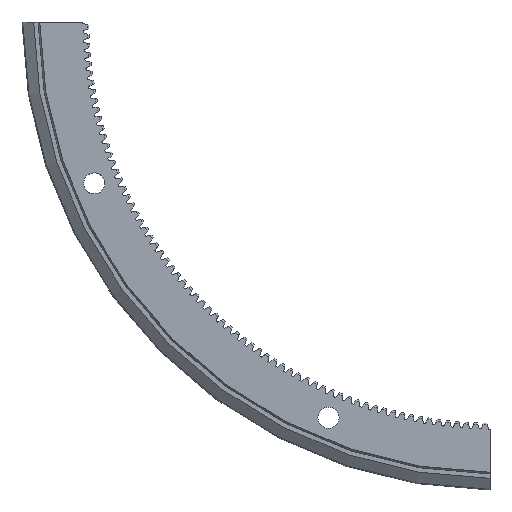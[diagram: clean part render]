
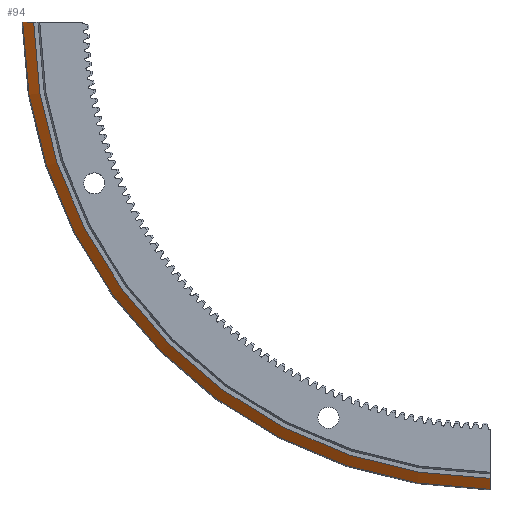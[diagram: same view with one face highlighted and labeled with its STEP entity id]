
A CAD part, front view. The second image highlights one B-rep face of the part: STEP entity #94.
In plain terms, the highlighted conical face has half-angle 55 degrees and reference radius 111.479 mm.
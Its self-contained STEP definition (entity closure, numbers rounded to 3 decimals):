
#94=ADVANCED_FACE('',(#455),#456,.T.);
#455=FACE_OUTER_BOUND('',#1183,.T.);
#456=CONICAL_SURFACE('',#1184,111.479,0.96);
#1183=EDGE_LOOP('',(#1923,#1924,#1925,#1926));
#1184=AXIS2_PLACEMENT_3D('',#1927,#1928,#1929);
#1923=ORIENTED_EDGE('',*,*,#5108,.F.);
#1924=ORIENTED_EDGE('',*,*,#5119,.F.);
#1925=ORIENTED_EDGE('',*,*,#5120,.F.);
#1926=ORIENTED_EDGE('',*,*,#5121,.T.);
#1927=CARTESIAN_POINT('',(0.0,7.576,0.0));
#1928=DIRECTION('',(-0.0,1.0,-0.0));
#1929=DIRECTION('',(0.0,0.0,1.0));
#5108=EDGE_CURVE('',#6169,#6170,#6171,.T.);
#5119=EDGE_CURVE('',#6191,#6169,#6192,.T.);
#5120=EDGE_CURVE('',#6193,#6191,#6194,.T.);
#5121=EDGE_CURVE('',#6193,#6170,#6195,.T.);
#6169=VERTEX_POINT('',#7940);
#6170=VERTEX_POINT('',#7941);
#6171=B_SPLINE_CURVE_WITH_KNOTS('',3,(#7942,#7943,#7944,#7945),.UNSPECIFIED.,.F.,.F.,(4,4),(0.266,0.269),.UNSPECIFIED.);
#6191=VERTEX_POINT('',#7987);
#6192=CIRCLE('',#7988,108.943);
#6193=VERTEX_POINT('',#7989);
#6194=B_SPLINE_CURVE_WITH_KNOTS('',3,(#7990,#7991,#7992,#7993),.UNSPECIFIED.,.F.,.F.,(4,4),(0.163,0.166),.UNSPECIFIED.);
#6195=CIRCLE('',#7994,111.479);
#7940=CARTESIAN_POINT('',(-1.0,5.8,-108.938));
#7941=CARTESIAN_POINT('',(-1.0,7.576,-111.475));
#7942=CARTESIAN_POINT('',(-1.0,5.8,-108.938));
#7943=CARTESIAN_POINT('',(-1.0,6.392,-109.784));
#7944=CARTESIAN_POINT('',(-1.0,6.984,-110.629));
#7945=CARTESIAN_POINT('',(-1.0,7.576,-111.475));
#7987=CARTESIAN_POINT('',(-108.938,5.8,-1.0));
#7988=AXIS2_PLACEMENT_3D('',#10718,#10719,#10720);
#7989=CARTESIAN_POINT('',(-111.475,7.576,-1.0));
#7990=CARTESIAN_POINT('',(-111.475,7.576,-1.0));
#7991=CARTESIAN_POINT('',(-110.629,6.984,-1.0));
#7992=CARTESIAN_POINT('',(-109.784,6.392,-1.0));
#7993=CARTESIAN_POINT('',(-108.938,5.8,-1.0));
#7994=AXIS2_PLACEMENT_3D('',#10721,#10722,#10723);
#10718=CARTESIAN_POINT('',(0.0,5.8,0.0));
#10719=DIRECTION('',(0.0,-1.0,0.0));
#10720=DIRECTION('',(0.0,0.0,-1.0));
#10721=CARTESIAN_POINT('',(0.0,7.576,0.0));
#10722=DIRECTION('',(0.0,-1.0,0.0));
#10723=DIRECTION('',(0.0,0.0,-1.0));
